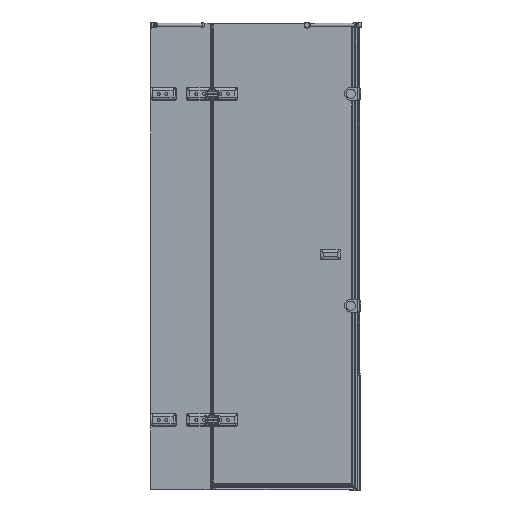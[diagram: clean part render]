
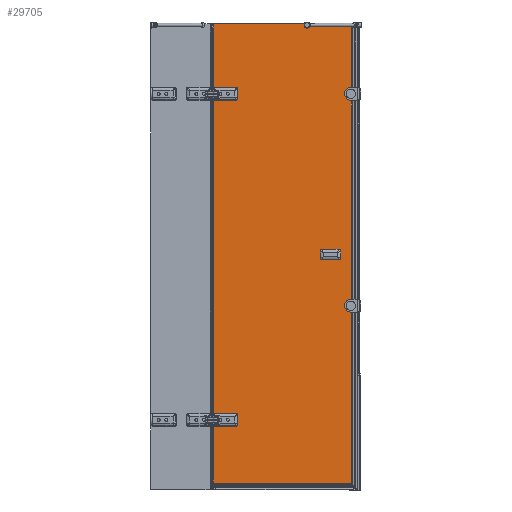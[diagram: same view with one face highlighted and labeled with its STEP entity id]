
A CAD part, left-side view. The second image highlights one B-rep face of the part: STEP entity #29705.
In plain terms, the highlighted planar face has unit normal (-1, 0, 0).
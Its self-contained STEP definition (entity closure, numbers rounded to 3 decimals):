
#1026=PLANE($,#32248);
#1466=FACE_BOUND($,#10132,.T.);
#1467=FACE_BOUND($,#10133,.T.);
#1468=FACE_BOUND($,#10134,.T.);
#2181=LINE($,#58220,#4690);
#2902=LINE($,#61728,#5411);
#3165=LINE($,#65098,#5674);
#3642=LINE($,#66577,#6151);
#3668=LINE($,#66860,#6177);
#3713=LINE($,#67039,#6222);
#3715=LINE($,#67043,#6224);
#3716=LINE($,#67047,#6225);
#3717=LINE($,#67050,#6226);
#3718=LINE($,#67054,#6227);
#3719=LINE($,#67057,#6228);
#3720=LINE($,#67058,#6229);
#4690=VECTOR($,#34875,1362.);
#5411=VECTOR($,#36948,281.);
#5674=VECTOR($,#37773,598.747);
#6151=VECTOR($,#38954,30.747);
#6177=VECTOR($,#39026,256.4);
#6222=VECTOR($,#39167,30.747);
#6224=VECTOR($,#39171,30.747);
#6225=VECTOR($,#39174,18.);
#6226=VECTOR($,#39177,30.747);
#6227=VECTOR($,#39180,18.);
#6228=VECTOR($,#39183,598.747);
#6229=VECTOR($,#39184,1975.4);
#10132=EDGE_LOOP($,(#25120));
#10133=EDGE_LOOP($,(#25121));
#10134=EDGE_LOOP($,(#25122,#25123,#25124,#25125,#25126,#25127,#25128,#25129,
#25130,#25131,#25132,#25133,#25134,#25135,#25136,#25137));
#11206=CIRCLE($,#30674,6.5);
#11468=CIRCLE($,#31350,6.5);
#11801=CIRCLE($,#32249,10.);
#11802=CIRCLE($,#32250,10.);
#11803=CIRCLE($,#32251,10.);
#11804=CIRCLE($,#32252,10.);
#12554=VERTEX_POINT($,#57280);
#12736=VERTEX_POINT($,#58217);
#12737=VERTEX_POINT($,#58219);
#13272=VERTEX_POINT($,#60793);
#13451=VERTEX_POINT($,#61725);
#13452=VERTEX_POINT($,#61727);
#13758=VERTEX_POINT($,#65097);
#14177=VERTEX_POINT($,#66576);
#14221=VERTEX_POINT($,#66848);
#14222=VERTEX_POINT($,#66859);
#14258=VERTEX_POINT($,#67038);
#14259=VERTEX_POINT($,#67042);
#14260=VERTEX_POINT($,#67044);
#14261=VERTEX_POINT($,#67046);
#14262=VERTEX_POINT($,#67049);
#14263=VERTEX_POINT($,#67051);
#14264=VERTEX_POINT($,#67053);
#14265=VERTEX_POINT($,#67056);
#15428=EDGE_CURVE($,#12554,#12554,#11206,.T.);
#15718=EDGE_CURVE($,#12737,#12736,#2181,.T.);
#16533=EDGE_CURVE($,#13272,#13272,#11468,.T.);
#16820=EDGE_CURVE($,#13452,#13451,#2902,.T.);
#17268=EDGE_CURVE($,#13452,#13758,#3165,.T.);
#17906=EDGE_CURVE($,#14177,#12737,#3642,.T.);
#17963=EDGE_CURVE($,#14222,#14221,#3668,.T.);
#18030=EDGE_CURVE($,#14258,#14222,#3713,.T.);
#18032=EDGE_CURVE($,#13451,#14259,#3715,.T.);
#18033=EDGE_CURVE($,#14260,#14259,#11801,.T.);
#18034=EDGE_CURVE($,#14260,#14261,#3716,.T.);
#18035=EDGE_CURVE($,#14177,#14261,#11802,.T.);
#18036=EDGE_CURVE($,#12736,#14262,#3717,.T.);
#18037=EDGE_CURVE($,#14263,#14262,#11803,.T.);
#18038=EDGE_CURVE($,#14263,#14264,#3718,.T.);
#18039=EDGE_CURVE($,#14258,#14264,#11804,.T.);
#18040=EDGE_CURVE($,#14265,#14221,#3719,.T.);
#18041=EDGE_CURVE($,#14265,#13758,#3720,.T.);
#25120=ORIENTED_EDGE($,*,*,#15428,.T.);
#25121=ORIENTED_EDGE($,*,*,#16533,.T.);
#25122=ORIENTED_EDGE($,*,*,#16820,.T.);
#25123=ORIENTED_EDGE($,*,*,#18032,.T.);
#25124=ORIENTED_EDGE($,*,*,#18033,.F.);
#25125=ORIENTED_EDGE($,*,*,#18034,.T.);
#25126=ORIENTED_EDGE($,*,*,#18035,.F.);
#25127=ORIENTED_EDGE($,*,*,#17906,.T.);
#25128=ORIENTED_EDGE($,*,*,#15718,.T.);
#25129=ORIENTED_EDGE($,*,*,#18036,.T.);
#25130=ORIENTED_EDGE($,*,*,#18037,.F.);
#25131=ORIENTED_EDGE($,*,*,#18038,.T.);
#25132=ORIENTED_EDGE($,*,*,#18039,.F.);
#25133=ORIENTED_EDGE($,*,*,#18030,.T.);
#25134=ORIENTED_EDGE($,*,*,#17963,.T.);
#25135=ORIENTED_EDGE($,*,*,#18040,.F.);
#25136=ORIENTED_EDGE($,*,*,#18041,.T.);
#25137=ORIENTED_EDGE($,*,*,#17268,.F.);
#29705=ADVANCED_FACE($,(#1466,#1467,#1468),#1026,.T.);
#30674=AXIS2_PLACEMENT_3D($,#57281,#34305,#34306);
#31350=AXIS2_PLACEMENT_3D($,#60794,#36380,#36381);
#32248=AXIS2_PLACEMENT_3D($,#67041,#39169,#39170);
#32249=AXIS2_PLACEMENT_3D($,#67045,#39172,#39173);
#32250=AXIS2_PLACEMENT_3D($,#67048,#39175,#39176);
#32251=AXIS2_PLACEMENT_3D($,#67052,#39178,#39179);
#32252=AXIS2_PLACEMENT_3D($,#67055,#39181,#39182);
#34305=DIRECTION('center_axis',(1.,0.,0.));
#34306=DIRECTION('ref_axis',(0.,1.,0.));
#34875=DIRECTION($,(0.,0.,-1.));
#36380=DIRECTION('center_axis',(1.,0.,0.));
#36381=DIRECTION('ref_axis',(0.,1.,0.));
#36948=DIRECTION($,(0.,0.,-1.));
#37773=DIRECTION($,(0.,-1.,0.));
#38954=DIRECTION($,(0.,1.,0.));
#39026=DIRECTION($,(0.,0.,-1.));
#39167=DIRECTION($,(0.,1.,0.));
#39169=DIRECTION('center_axis',(-1.,0.,0.));
#39170=DIRECTION('ref_axis',(0.,-1.,0.));
#39171=DIRECTION($,(0.,-1.,0.));
#39172=DIRECTION('center_axis',(-1.,0.,0.));
#39173=DIRECTION('ref_axis',(0.,-0.707,0.707));
#39174=DIRECTION($,(0.,0.,-1.));
#39175=DIRECTION('center_axis',(-1.,0.,0.));
#39176=DIRECTION('ref_axis',(0.,-0.707,-0.707));
#39177=DIRECTION($,(0.,-1.,0.));
#39178=DIRECTION('center_axis',(-1.,0.,0.));
#39179=DIRECTION('ref_axis',(0.,-0.707,0.707));
#39180=DIRECTION($,(0.,0.,-1.));
#39181=DIRECTION('center_axis',(-1.,0.,0.));
#39182=DIRECTION('ref_axis',(0.,-0.707,-0.707));
#39183=DIRECTION($,(0.,1.,0.));
#39184=DIRECTION($,(0.,0.,1.));
#57280=CARTESIAN_POINT('',(1225.733,607.456,-214.056));
#57281=CARTESIAN_POINT('Origin',(1225.733,613.956,-214.056));
#58217=CARTESIAN_POINT('',(1225.733,677.703,-195.056));
#58219=CARTESIAN_POINT('',(1225.733,677.703,1166.944));
#58220=CARTESIAN_POINT($,(1225.733,677.703,-204.056));
#60793=CARTESIAN_POINT('',(1225.733,607.456,1185.944));
#60794=CARTESIAN_POINT('Origin',(1225.733,613.956,1185.944));
#61725=CARTESIAN_POINT('',(1225.733,677.703,1204.944));
#61727=CARTESIAN_POINT('',(1225.733,677.703,1485.944));
#61728=CARTESIAN_POINT($,(1225.733,677.703,1195.944));
#65097=CARTESIAN_POINT('',(1225.733,78.956,1485.944));
#65098=CARTESIAN_POINT($,(1225.733,678.956,1485.944));
#66576=CARTESIAN_POINT('',(1225.733,646.956,1166.944));
#66577=CARTESIAN_POINT($,(1225.733,657.956,1166.944));
#66848=CARTESIAN_POINT('',(1225.733,677.703,-489.456));
#66859=CARTESIAN_POINT('',(1225.733,677.703,-233.056));
#66860=CARTESIAN_POINT($,(1225.733,677.703,-224.056));
#67038=CARTESIAN_POINT('',(1225.733,646.956,-233.056));
#67039=CARTESIAN_POINT($,(1225.733,657.956,-233.056));
#67041=CARTESIAN_POINT('Origin',(1225.733,678.956,-494.056));
#67042=CARTESIAN_POINT('',(1225.733,646.956,1204.944));
#67043=CARTESIAN_POINT($,(1225.733,678.956,1204.944));
#67044=CARTESIAN_POINT('',(1225.733,636.956,1194.944));
#67045=CARTESIAN_POINT('Origin',(1225.733,646.956,1194.944));
#67046=CARTESIAN_POINT('',(1225.733,636.956,1176.944));
#67047=CARTESIAN_POINT($,(1225.733,636.956,355.444));
#67048=CARTESIAN_POINT('Origin',(1225.733,646.956,1176.944));
#67049=CARTESIAN_POINT('',(1225.733,646.956,-195.056));
#67050=CARTESIAN_POINT($,(1225.733,678.956,-195.056));
#67051=CARTESIAN_POINT('',(1225.733,636.956,-205.056));
#67052=CARTESIAN_POINT('Origin',(1225.733,646.956,-205.056));
#67053=CARTESIAN_POINT('',(1225.733,636.956,-223.056));
#67054=CARTESIAN_POINT($,(1225.733,636.956,-344.556));
#67055=CARTESIAN_POINT('Origin',(1225.733,646.956,-223.056));
#67056=CARTESIAN_POINT('',(1225.733,78.956,-489.456));
#67057=CARTESIAN_POINT($,(1225.733,68.956,-489.456));
#67058=CARTESIAN_POINT($,(1225.733,78.956,-494.056));
